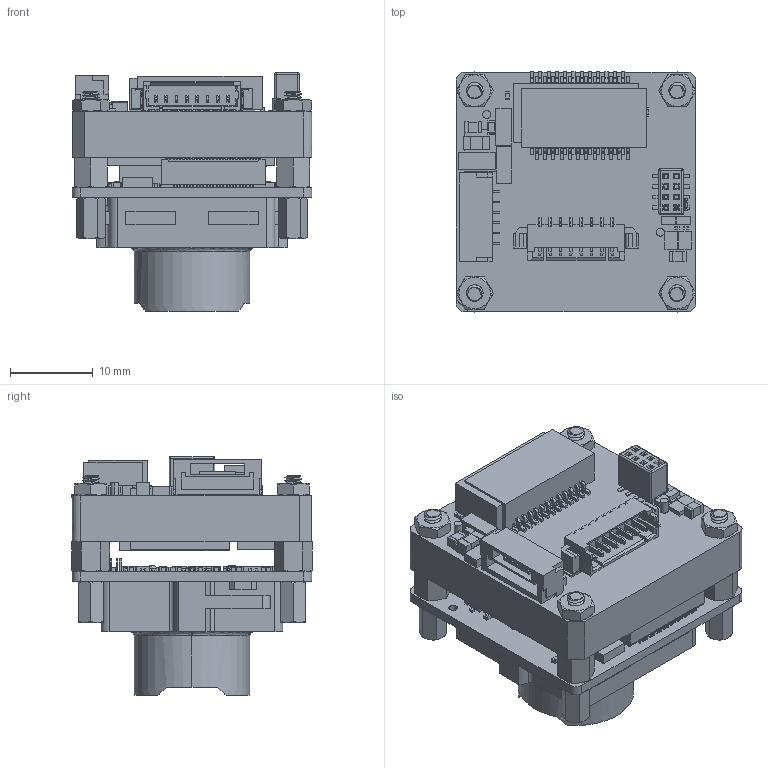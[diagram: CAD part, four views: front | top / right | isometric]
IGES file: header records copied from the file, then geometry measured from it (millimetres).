
Start section:  PTC IGES file: mv-cb0163d-wm00.igs
Global section: file name: mv-cb0163d-wm00.igs; native system: Creo Parametric by PTC Inc.; preprocessor: 2017260; author: fangguihua; organization: Unknown; date: 20201123.095453; units: millimetre
Bounding box: 29.01 x 29.12 x 28.9 mm (x, y, z)
Surface area: 11336.8 mm2 (no closed solid volume)
Topology: 0 solids, 0 shells, 7555 faces, 44422 edges, 44396 vertices
Faces by surface type: bspline 5585, revolution 1970
